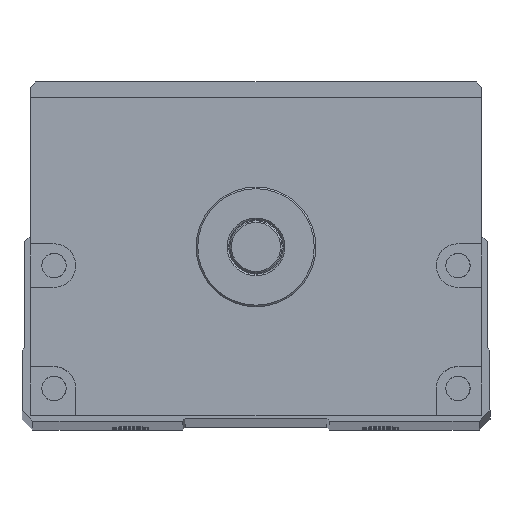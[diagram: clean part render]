
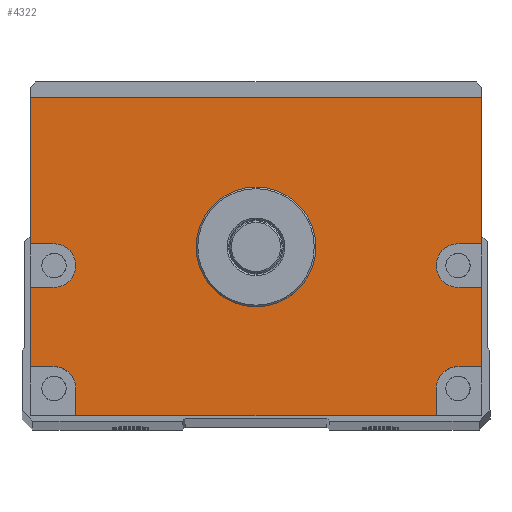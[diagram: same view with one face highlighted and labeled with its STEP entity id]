
A CAD part, top view. The second image highlights one B-rep face of the part: STEP entity #4322.
In plain terms, the highlighted planar face has unit normal (0, 0, 1).
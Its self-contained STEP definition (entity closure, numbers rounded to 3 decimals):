
#3688=FACE_BOUND('',#5861,.T.);
#3689=FACE_BOUND('',#5862,.T.);
#4322=ADVANCED_FACE('',(#3688,#3689),#4761,.T.);
#4761=PLANE('',#14250);
#5861=EDGE_LOOP('',(#9492,#9493,#9494,#9495,#9496,#9497,#9498,#9499,#9500,
#9501,#9502,#9503,#9504,#9505,#9506,#9507,#9508,#9509));
#5862=EDGE_LOOP('',(#9510));
#6670=LINE('',#20840,#7356);
#6672=LINE('',#20848,#7358);
#6673=LINE('',#20851,#7359);
#6674=LINE('',#20853,#7360);
#6675=LINE('',#20857,#7361);
#6676=LINE('',#20859,#7362);
#6677=LINE('',#20860,#7363);
#6678=LINE('',#20862,#7364);
#6679=LINE('',#20866,#7365);
#6680=LINE('',#20868,#7366);
#6681=LINE('',#20870,#7367);
#6682=LINE('',#20874,#7368);
#6683=LINE('',#20876,#7369);
#6684=LINE('',#20878,#7370);
#7356=VECTOR('',#16464,1.);
#7358=VECTOR('',#16472,1.);
#7359=VECTOR('',#16473,1.);
#7360=VECTOR('',#16474,1.);
#7361=VECTOR('',#16477,1.);
#7362=VECTOR('',#16478,1.);
#7363=VECTOR('',#16479,1.);
#7364=VECTOR('',#16480,1.);
#7365=VECTOR('',#16483,1.);
#7366=VECTOR('',#16484,1.);
#7367=VECTOR('',#16485,1.);
#7368=VECTOR('',#16488,1.);
#7369=VECTOR('',#16489,1.);
#7370=VECTOR('',#16490,1.);
#9492=ORIENTED_EDGE('',*,*,#12583,.F.);
#9493=ORIENTED_EDGE('',*,*,#12584,.T.);
#9494=ORIENTED_EDGE('',*,*,#12585,.F.);
#9495=ORIENTED_EDGE('',*,*,#12586,.F.);
#9496=ORIENTED_EDGE('',*,*,#12587,.F.);
#9497=ORIENTED_EDGE('',*,*,#12588,.T.);
#9498=ORIENTED_EDGE('',*,*,#12579,.T.);
#9499=ORIENTED_EDGE('',*,*,#12589,.T.);
#9500=ORIENTED_EDGE('',*,*,#12590,.F.);
#9501=ORIENTED_EDGE('',*,*,#12591,.F.);
#9502=ORIENTED_EDGE('',*,*,#12592,.F.);
#9503=ORIENTED_EDGE('',*,*,#12593,.T.);
#9504=ORIENTED_EDGE('',*,*,#12594,.F.);
#9505=ORIENTED_EDGE('',*,*,#12595,.F.);
#9506=ORIENTED_EDGE('',*,*,#12596,.F.);
#9507=ORIENTED_EDGE('',*,*,#12597,.T.);
#9508=ORIENTED_EDGE('',*,*,#12598,.F.);
#9509=ORIENTED_EDGE('',*,*,#12599,.F.);
#9510=ORIENTED_EDGE('',*,*,#12565,.T.);
#11227=VERTEX_POINT('',#20811);
#11240=VERTEX_POINT('',#20839);
#11241=VERTEX_POINT('',#20841);
#11244=VERTEX_POINT('',#20849);
#11245=VERTEX_POINT('',#20850);
#11246=VERTEX_POINT('',#20852);
#11247=VERTEX_POINT('',#20854);
#11248=VERTEX_POINT('',#20856);
#11249=VERTEX_POINT('',#20858);
#11250=VERTEX_POINT('',#20861);
#11251=VERTEX_POINT('',#20863);
#11252=VERTEX_POINT('',#20865);
#11253=VERTEX_POINT('',#20867);
#11254=VERTEX_POINT('',#20869);
#11255=VERTEX_POINT('',#20871);
#11256=VERTEX_POINT('',#20873);
#11257=VERTEX_POINT('',#20875);
#11258=VERTEX_POINT('',#20877);
#11259=VERTEX_POINT('',#20879);
#12565=EDGE_CURVE('',#11227,#11227,#13379,.T.);
#12579=EDGE_CURVE('',#11241,#11240,#6670,.T.);
#12583=EDGE_CURVE('',#11244,#11245,#6672,.T.);
#12584=EDGE_CURVE('',#11244,#11246,#6673,.T.);
#12585=EDGE_CURVE('',#11247,#11246,#6674,.T.);
#12586=EDGE_CURVE('',#11248,#11247,#13390,.T.);
#12587=EDGE_CURVE('',#11249,#11248,#6675,.T.);
#12588=EDGE_CURVE('',#11249,#11241,#6676,.T.);
#12589=EDGE_CURVE('',#11240,#11250,#6677,.T.);
#12590=EDGE_CURVE('',#11251,#11250,#6678,.T.);
#12591=EDGE_CURVE('',#11252,#11251,#13391,.T.);
#12592=EDGE_CURVE('',#11253,#11252,#6679,.T.);
#12593=EDGE_CURVE('',#11253,#11254,#6680,.T.);
#12594=EDGE_CURVE('',#11255,#11254,#6681,.T.);
#12595=EDGE_CURVE('',#11256,#11255,#13392,.T.);
#12596=EDGE_CURVE('',#11257,#11256,#6682,.T.);
#12597=EDGE_CURVE('',#11257,#11258,#6683,.T.);
#12598=EDGE_CURVE('',#11259,#11258,#6684,.T.);
#12599=EDGE_CURVE('',#11245,#11259,#13393,.T.);
#13379=CIRCLE('',#14232,11.);
#13390=CIRCLE('',#14246,4.);
#13391=CIRCLE('',#14247,4.);
#13392=CIRCLE('',#14248,4.);
#13393=CIRCLE('',#14249,4.);
#14232=AXIS2_PLACEMENT_3D('',#20810,#16437,#16438);
#14246=AXIS2_PLACEMENT_3D('',#20855,#16475,#16476);
#14247=AXIS2_PLACEMENT_3D('',#20864,#16481,#16482);
#14248=AXIS2_PLACEMENT_3D('',#20872,#16486,#16487);
#14249=AXIS2_PLACEMENT_3D('',#20880,#16491,#16492);
#14250=AXIS2_PLACEMENT_3D('',#20881,#16493,#16494);
#16437=DIRECTION('',(0.,0.,-1.));
#16438=DIRECTION('',(1.,0.,0.));
#16464=DIRECTION('',(-1.,0.,0.));
#16472=DIRECTION('',(-1.,0.,0.));
#16473=DIRECTION('',(0.,1.,0.));
#16474=DIRECTION('',(1.,0.,0.));
#16475=DIRECTION('',(0.,0.,1.));
#16476=DIRECTION('',(1.,0.,0.));
#16477=DIRECTION('',(-1.,0.,0.));
#16478=DIRECTION('',(0.,1.,0.));
#16479=DIRECTION('',(0.,-1.,0.));
#16480=DIRECTION('',(-1.,0.,0.));
#16481=DIRECTION('',(0.,0.,1.));
#16482=DIRECTION('',(1.,0.,0.));
#16483=DIRECTION('',(1.,0.,0.));
#16484=DIRECTION('',(0.,-1.,0.));
#16485=DIRECTION('',(-1.,0.,0.));
#16486=DIRECTION('',(0.,0.,1.));
#16487=DIRECTION('',(1.,0.,0.));
#16488=DIRECTION('',(0.,1.,0.));
#16489=DIRECTION('',(1.,0.,0.));
#16490=DIRECTION('',(0.,-1.,0.));
#16491=DIRECTION('',(0.,0.,1.));
#16492=DIRECTION('',(1.,0.,0.));
#16493=DIRECTION('',(0.,0.,1.));
#16494=DIRECTION('',(1.,0.,0.));
#20810=CARTESIAN_POINT('',(0.,0.,782.5));
#20811=CARTESIAN_POINT('',(11.,0.,782.5));
#20839=CARTESIAN_POINT('',(-41.5,27.5,782.5));
#20840=CARTESIAN_POINT('',(41.5,27.5,782.5));
#20841=CARTESIAN_POINT('',(41.5,27.5,782.5));
#20848=CARTESIAN_POINT('',(41.5,-22.,782.5));
#20849=CARTESIAN_POINT('',(41.5,-22.,782.5));
#20850=CARTESIAN_POINT('',(37.115,-22.,782.5));
#20851=CARTESIAN_POINT('',(41.5,-31.,782.5));
#20852=CARTESIAN_POINT('',(41.5,-7.431,782.5));
#20853=CARTESIAN_POINT('',(41.5,-7.431,782.5));
#20854=CARTESIAN_POINT('',(37.115,-7.431,782.5));
#20855=CARTESIAN_POINT('',(37.115,-3.431,782.5));
#20856=CARTESIAN_POINT('',(37.115,0.569,782.5));
#20857=CARTESIAN_POINT('',(41.5,0.569,782.5));
#20858=CARTESIAN_POINT('',(41.5,0.569,782.5));
#20859=CARTESIAN_POINT('',(41.5,-31.,782.5));
#20860=CARTESIAN_POINT('',(-41.5,27.5,782.5));
#20861=CARTESIAN_POINT('',(-41.5,0.569,782.5));
#20862=CARTESIAN_POINT('',(41.5,0.569,782.5));
#20863=CARTESIAN_POINT('',(-37.115,0.569,782.5));
#20864=CARTESIAN_POINT('',(-37.115,-3.431,782.5));
#20865=CARTESIAN_POINT('',(-37.115,-7.431,782.5));
#20866=CARTESIAN_POINT('',(41.5,-7.431,782.5));
#20867=CARTESIAN_POINT('',(-41.5,-7.431,782.5));
#20868=CARTESIAN_POINT('',(-41.5,27.5,782.5));
#20869=CARTESIAN_POINT('',(-41.5,-22.,782.5));
#20870=CARTESIAN_POINT('',(41.5,-22.,782.5));
#20871=CARTESIAN_POINT('',(-37.115,-22.,782.5));
#20872=CARTESIAN_POINT('',(-37.115,-26.,782.5));
#20873=CARTESIAN_POINT('',(-33.115,-26.,782.5));
#20874=CARTESIAN_POINT('',(-33.115,-31.,782.5));
#20875=CARTESIAN_POINT('',(-33.115,-31.,782.5));
#20876=CARTESIAN_POINT('',(-41.5,-31.,782.5));
#20877=CARTESIAN_POINT('',(33.115,-31.,782.5));
#20878=CARTESIAN_POINT('',(33.115,-31.,782.5));
#20879=CARTESIAN_POINT('',(33.115,-26.,782.5));
#20880=CARTESIAN_POINT('',(37.115,-26.,782.5));
#20881=CARTESIAN_POINT('',(41.5,-31.,782.5));
